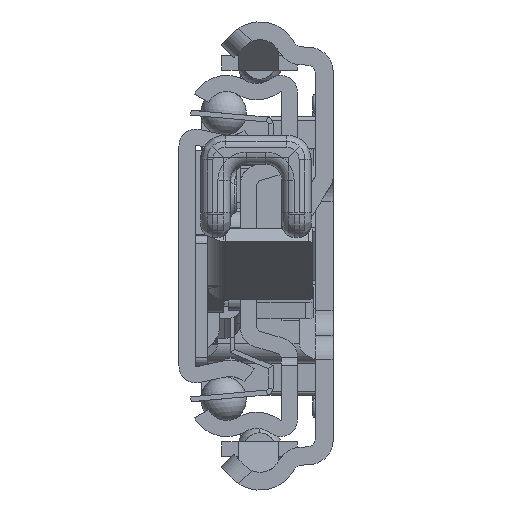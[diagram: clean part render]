
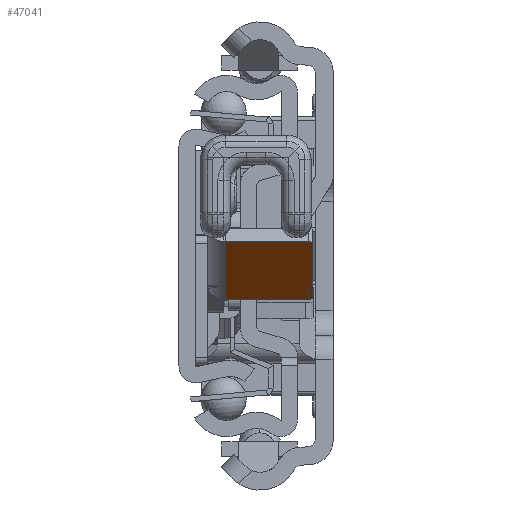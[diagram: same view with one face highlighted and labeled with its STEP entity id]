
A CAD part, left-side view. The second image highlights one B-rep face of the part: STEP entity #47041.
In plain terms, the highlighted planar face has unit normal (-0.597, 0, -0.802) as drawn and (-0.597, -0.802, 0) by its records, which use the part's own axes.
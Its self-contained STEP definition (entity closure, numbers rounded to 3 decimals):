
#46433=DIRECTION('',(0.802,-0.597,0.));
#46434=VECTOR('',#46433,12.);
#46435=CARTESIAN_POINT('',(31.957,-10.314,2.2));
#46436=LINE('',#46435,#46434);
#46461=CARTESIAN_POINT('',(41.184,-17.178,12.5));
#46462=DIRECTION('',(-0.597,-0.802,0.));
#46463=DIRECTION('',(0.802,-0.597,0.));
#46464=AXIS2_PLACEMENT_3D('',#46461,#46462,#46463);
#46466=DIRECTION('',(0.,0.,1.));
#46467=VECTOR('',#46466,10.3);
#46468=CARTESIAN_POINT('',(41.586,-17.476,2.2));
#46469=LINE('',#46468,#46467);
#46470=DIRECTION('',(0.,0.,-1.));
#46471=VECTOR('',#46470,10.3);
#46472=CARTESIAN_POINT('',(31.957,-10.314,12.5));
#46473=LINE('',#46472,#46471);
#46474=CARTESIAN_POINT('',(32.358,-10.613,12.5));
#46475=DIRECTION('',(-0.597,-0.802,0.));
#46476=DIRECTION('',(0.,0.,1.));
#46477=AXIS2_PLACEMENT_3D('',#46474,#46475,#46476);
#46479=DIRECTION('',(-0.802,0.597,0.));
#46480=VECTOR('',#46479,11.);
#46481=CARTESIAN_POINT('',(41.184,-17.178,13.));
#46482=LINE('',#46481,#46480);
#46695=CARTESIAN_POINT('',(31.957,-10.314,2.2));
#46696=CARTESIAN_POINT('',(41.586,-17.476,2.2));
#46697=VERTEX_POINT('',#46695);
#46698=VERTEX_POINT('',#46696);
#46727=CARTESIAN_POINT('',(41.586,-17.476,12.5));
#46728=CARTESIAN_POINT('',(41.184,-17.178,13.));
#46729=VERTEX_POINT('',#46727);
#46730=VERTEX_POINT('',#46728);
#46735=CARTESIAN_POINT('',(32.358,-10.613,13.));
#46736=CARTESIAN_POINT('',(31.957,-10.314,12.5));
#46737=VERTEX_POINT('',#46735);
#46738=VERTEX_POINT('',#46736);
#47023=CARTESIAN_POINT('',(34.726,-12.374,0.));
#47024=DIRECTION('',(-0.597,-0.802,0.));
#47025=DIRECTION('',(0.802,-0.597,0.));
#47026=AXIS2_PLACEMENT_3D('',#47023,#47024,#47025);
#47027=PLANE('',#47026);
#47029=ORIENTED_EDGE('',*,*,#47028,.F.);
#47031=ORIENTED_EDGE('',*,*,#47030,.F.);
#47032=ORIENTED_EDGE('',*,*,#47010,.F.);
#47034=ORIENTED_EDGE('',*,*,#47033,.F.);
#47036=ORIENTED_EDGE('',*,*,#47035,.F.);
#47038=ORIENTED_EDGE('',*,*,#47037,.F.);
#47039=EDGE_LOOP('',(#47029,#47031,#47032,#47034,#47036,#47038));
#47040=FACE_OUTER_BOUND('',#47039,.F.);
#46465=CIRCLE('',#46464,0.5);
#46478=CIRCLE('',#46477,0.5);
#47010=EDGE_CURVE('',#46697,#46698,#46436,.T.);
#47028=EDGE_CURVE('',#46729,#46730,#46465,.T.);
#47030=EDGE_CURVE('',#46698,#46729,#46469,.T.);
#47033=EDGE_CURVE('',#46738,#46697,#46473,.T.);
#47035=EDGE_CURVE('',#46737,#46738,#46478,.T.);
#47037=EDGE_CURVE('',#46730,#46737,#46482,.T.);
#47041=ADVANCED_FACE('',(#47040),#47027,.T.);
